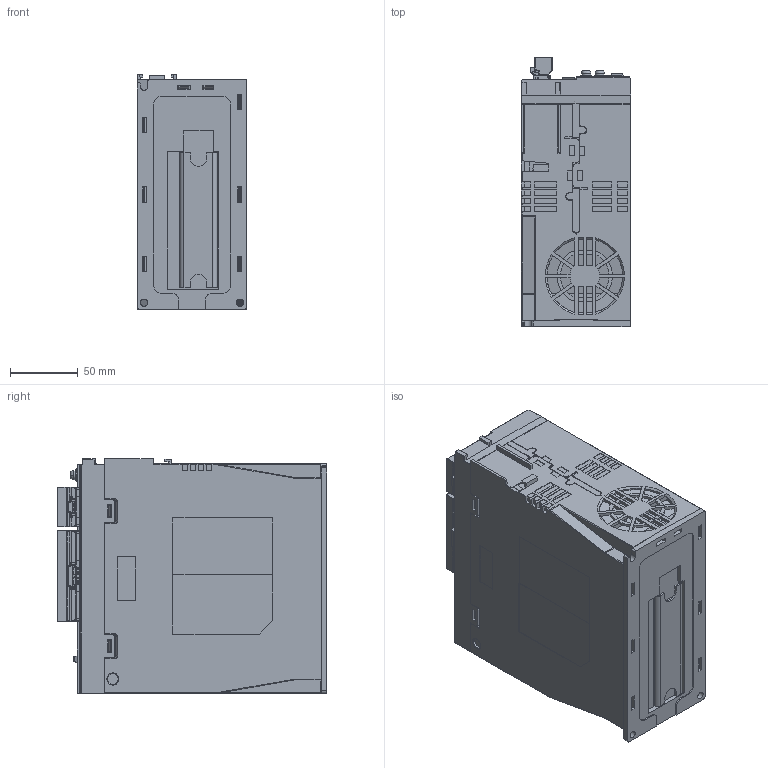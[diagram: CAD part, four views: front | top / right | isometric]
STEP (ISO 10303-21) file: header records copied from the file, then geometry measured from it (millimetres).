
FILE_DESCRIPTION((''),'2;1');
FILE_NAME('AS3-30CNI_ASM_1_ASM','2025-06-04T11:28:34',('Admin'),(''),'CREO PARAMETRIC BY PTC INC, 2020074','CREO PARAMETRIC BY PTC INC, 2020074','');
FILE_SCHEMA(('CONFIG_CONTROL_DESIGN'));
Products named in the file (2): AS3-30CNI_1; AS3-30CNI_ASM_1_ASM
Assembly tree (1 placements, depth 2):
  AS3-30CNI_ASM_1_ASM
    AS3-30CNI_1
Bounding box: 81.1 x 199.7 x 174 mm (x, y, z)
Volume: 2290326 mm3; surface area: 234457.8 mm2
Topology: 1 solids, 43 shells, 6019 faces, 16925 edges, 11032 vertices
Faces by surface type: plane 4649, cylinder 995, torus 109, cone 107, sphere 73, bspline 70, extrusion 16
Entity records: 197766 total; most frequent: CARTESIAN_POINT 42013, ORIENTED_EDGE 33706, DIRECTION 30172, EDGE_CURVE 16853, VECTOR 13828, LINE 13812, VERTEX_POINT 11032, AXIS2_PLACEMENT_3D 8172
